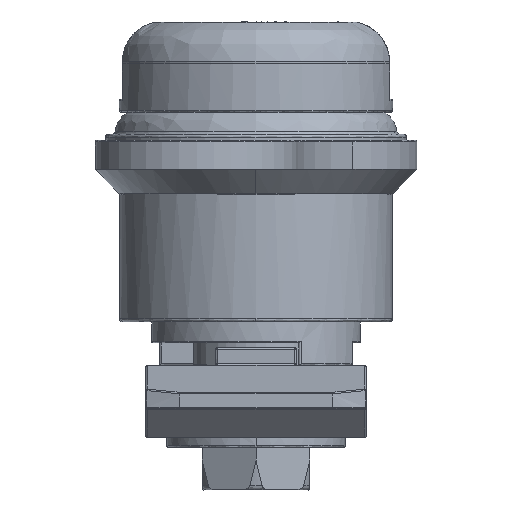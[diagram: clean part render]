
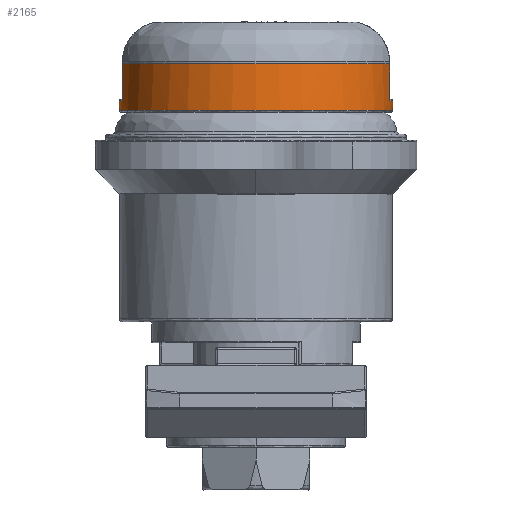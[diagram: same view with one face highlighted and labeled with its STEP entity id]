
A CAD part, left-side view. The second image highlights one B-rep face of the part: STEP entity #2165.
In plain terms, the highlighted cylindrical face has radius 8.5 mm (diameter 17 mm), a partial arc.
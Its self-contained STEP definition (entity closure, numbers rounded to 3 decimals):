
#1346 = VERTEX_POINT ( 'NONE', #8080 ) ;
#1361 = VERTEX_POINT ( 'NONE', #8242 ) ;
#1652 = EDGE_CURVE ( 'NONE', #1346, #1855, #9150, .T. ) ;
#1743 = EDGE_CURVE ( 'NONE', #1806, #1744, #9552, .T. ) ;
#1744 = VERTEX_POINT ( 'NONE', #9548 ) ;
#1806 = VERTEX_POINT ( 'NONE', #9775 ) ;
#1855 = VERTEX_POINT ( 'NONE', #10007 ) ;
#1935 = EDGE_CURVE ( 'NONE', #1855, #1361, #10136, .T. ) ;
#1958 = VERTEX_POINT ( 'NONE', #10111 ) ;
#1960 = EDGE_CURVE ( 'NONE', #1958, #1744, #10177, .T. ) ;
#1967 = EDGE_CURVE ( 'NONE', #2114, #1958, #10089, .T. ) ;
#1981 = EDGE_CURVE ( 'NONE', #1361, #2311, #10025, .T. ) ;
#2114 = VERTEX_POINT ( 'NONE', #10582 ) ;
#2165 = ADVANCED_FACE ( 'NONE', ( #10527 ), #10526, .T. ) ;
#2166 = EDGE_LOOP ( 'NONE', ( #2167, #2168, #2449, #2450, #2451, #2452, #2307, #2308 ) ) ;
#2167 = ORIENTED_EDGE ( 'NONE', *, *, #1743, .F. ) ;
#2168 = ORIENTED_EDGE ( 'NONE', *, *, #2169, .F. ) ;
#2169 = EDGE_CURVE ( 'NONE', #1346, #1806, #10524, .T. ) ;
#2307 = ORIENTED_EDGE ( 'NONE', *, *, #1967, .T. ) ;
#2308 = ORIENTED_EDGE ( 'NONE', *, *, #1960, .T. ) ;
#2311 = VERTEX_POINT ( 'NONE', #11074 ) ;
#2314 = EDGE_CURVE ( 'NONE', #2311, #2114, #11073, .T. ) ;
#2449 = ORIENTED_EDGE ( 'NONE', *, *, #1652, .T. ) ;
#2450 = ORIENTED_EDGE ( 'NONE', *, *, #1935, .T. ) ;
#2451 = ORIENTED_EDGE ( 'NONE', *, *, #1981, .T. ) ;
#2452 = ORIENTED_EDGE ( 'NONE', *, *, #2314, .T. ) ;
#8080 = CARTESIAN_POINT ( 'NONE',  ( 86.308, 208.081, 52.25 ) ) ;
#8242 = CARTESIAN_POINT ( 'NONE',  ( 84.508, 208.273, 52.85 ) ) ;
#9147 = DIRECTION ( 'NONE',  ( 0., 0., 1. ) ) ;
#9148 = VECTOR ( 'NONE', #9147, 1000. ) ;
#9149 = CARTESIAN_POINT ( 'NONE',  ( 86.308, 208.081, 53.65 ) ) ;
#9150 = LINE ( 'NONE', #9149, #9148 ) ;
#9548 = CARTESIAN_POINT ( 'NONE',  ( 86.308, 225.081, 52.85 ) ) ;
#9549 = DIRECTION ( 'NONE',  ( 0., 0., 1. ) ) ;
#9550 = VECTOR ( 'NONE', #9549, 1000. ) ;
#9551 = CARTESIAN_POINT ( 'NONE',  ( 86.308, 225.081, 53.65 ) ) ;
#9552 = LINE ( 'NONE', #9551, #9550 ) ;
#9775 = CARTESIAN_POINT ( 'NONE',  ( 86.308, 225.081, 52.25 ) ) ;
#10007 = CARTESIAN_POINT ( 'NONE',  ( 86.308, 208.081, 52.85 ) ) ;
#10012 = CARTESIAN_POINT ( 'NONE',  ( 84.508, 208.273, 53.65 ) ) ;
#10025 = LINE ( 'NONE', #10012, #10028 ) ;
#10027 = DIRECTION ( 'NONE',  ( 0., 0., 1. ) ) ;
#10028 = VECTOR ( 'NONE', #10027, 1000. ) ;
#10075 = DIRECTION ( 'NONE',  ( 0., -1., 0. ) ) ;
#10076 = DIRECTION ( 'NONE',  ( 0., 0., -1. ) ) ;
#10088 = CARTESIAN_POINT ( 'NONE',  ( 84.508, 224.888, 53.65 ) ) ;
#10089 = LINE ( 'NONE', #10088, #10091 ) ;
#10090 = DIRECTION ( 'NONE',  ( 0., 0., -1. ) ) ;
#10091 = VECTOR ( 'NONE', #10090, 1000. ) ;
#10111 = CARTESIAN_POINT ( 'NONE',  ( 84.508, 224.888, 52.85 ) ) ;
#10136 = CIRCLE ( 'NONE', #10137, 8.5 ) ;
#10137 = AXIS2_PLACEMENT_3D ( 'NONE', #10138, #10076, #10075 ) ;
#10138 = CARTESIAN_POINT ( 'NONE',  ( 86.308, 216.581, 52.85 ) ) ;
#10175 = DIRECTION ( 'NONE',  ( 0., -1., 0. ) ) ;
#10176 = DIRECTION ( 'NONE',  ( 0., 0., -1. ) ) ;
#10177 = CIRCLE ( 'NONE', #10184, 8.5 ) ;
#10182 = CARTESIAN_POINT ( 'NONE',  ( 86.308, 216.581, 52.85 ) ) ;
#10184 = AXIS2_PLACEMENT_3D ( 'NONE', #10182, #10176, #10175 ) ;
#10517 = DIRECTION ( 'NONE',  ( 0., 1., 0. ) ) ;
#10518 = DIRECTION ( 'NONE',  ( 0., 0., -1. ) ) ;
#10519 = AXIS2_PLACEMENT_3D ( 'NONE', #10525, #10518, #10517 ) ;
#10520 = DIRECTION ( 'NONE',  ( 0., -1., 0. ) ) ;
#10521 = DIRECTION ( 'NONE',  ( 0., 0., 1. ) ) ;
#10522 = CARTESIAN_POINT ( 'NONE',  ( 86.308, 216.581, 53.65 ) ) ;
#10523 = AXIS2_PLACEMENT_3D ( 'NONE', #10522, #10521, #10520 ) ;
#10524 = CIRCLE ( 'NONE', #10519, 8.5 ) ;
#10525 = CARTESIAN_POINT ( 'NONE',  ( 86.308, 216.581, 52.25 ) ) ;
#10526 = CYLINDRICAL_SURFACE ( 'NONE', #10523, 8.5 ) ;
#10527 = FACE_OUTER_BOUND ( 'NONE', #2166, .T. ) ;
#10582 = CARTESIAN_POINT ( 'NONE',  ( 84.508, 224.888, 55.15 ) ) ;
#11069 = DIRECTION ( 'NONE',  ( 0., -1., 0. ) ) ;
#11070 = DIRECTION ( 'NONE',  ( 0., 0., -1. ) ) ;
#11071 = CARTESIAN_POINT ( 'NONE',  ( 86.308, 216.581, 55.15 ) ) ;
#11072 = AXIS2_PLACEMENT_3D ( 'NONE', #11071, #11070, #11069 ) ;
#11073 = CIRCLE ( 'NONE', #11072, 8.5 ) ;
#11074 = CARTESIAN_POINT ( 'NONE',  ( 84.508, 208.273, 55.15 ) ) ;
